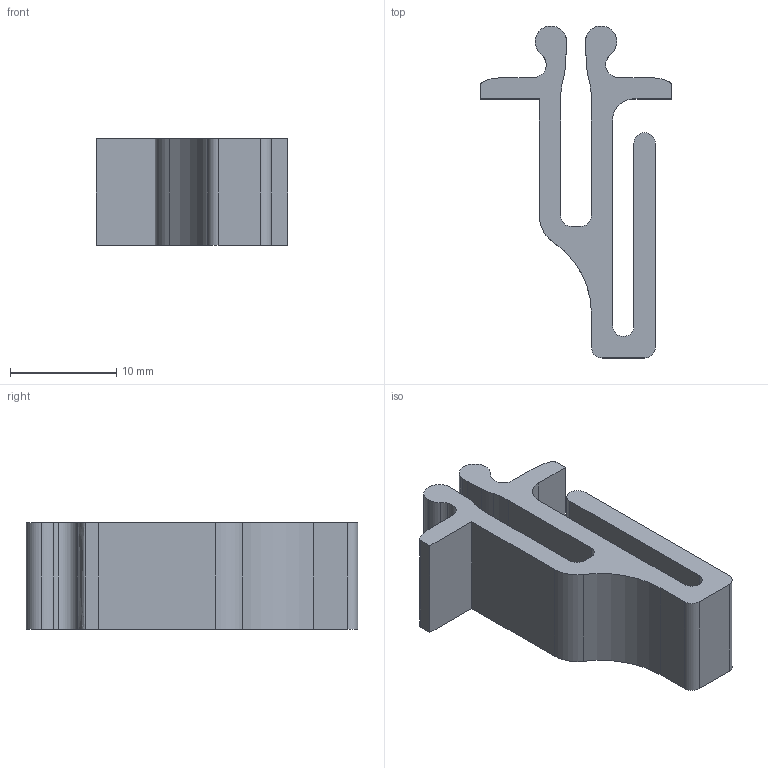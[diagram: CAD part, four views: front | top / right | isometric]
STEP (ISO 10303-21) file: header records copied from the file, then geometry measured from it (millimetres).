
FILE_DESCRIPTION (( 'STEP AP203' ), '1' );
FILE_NAME ('DBP_SD_CABLE_CLIP 90 deg 2040 V2 rev02.STEP', '2018-12-04T15:57:09', ( '' ), ( '' ), 'SwSTEP 2.0', 'SolidWorks 2015', '' );
FILE_SCHEMA (( 'CONFIG_CONTROL_DESIGN' ));
Length unit declared in the file: inch
Products named in the file (1): DBP_SD_CABLE_CLIP 90 deg 2040 V2 rev02
Bounding box: 18 x 31.2 x 10 mm (x, y, z)
Volume: 1851 mm3; surface area: 2112.5 mm2
Topology: 1 solids, 1 shells, 47 faces, 135 edges, 90 vertices
Faces by surface type: cylinder 28, plane 17, bspline 2
Entity records: 1773 total; most frequent: CARTESIAN_POINT 426, DIRECTION 275, ORIENTED_EDGE 270, EDGE_CURVE 135, AXIS2_PLACEMENT_3D 102, VERTEX_POINT 90, VECTOR 71, LINE 71
